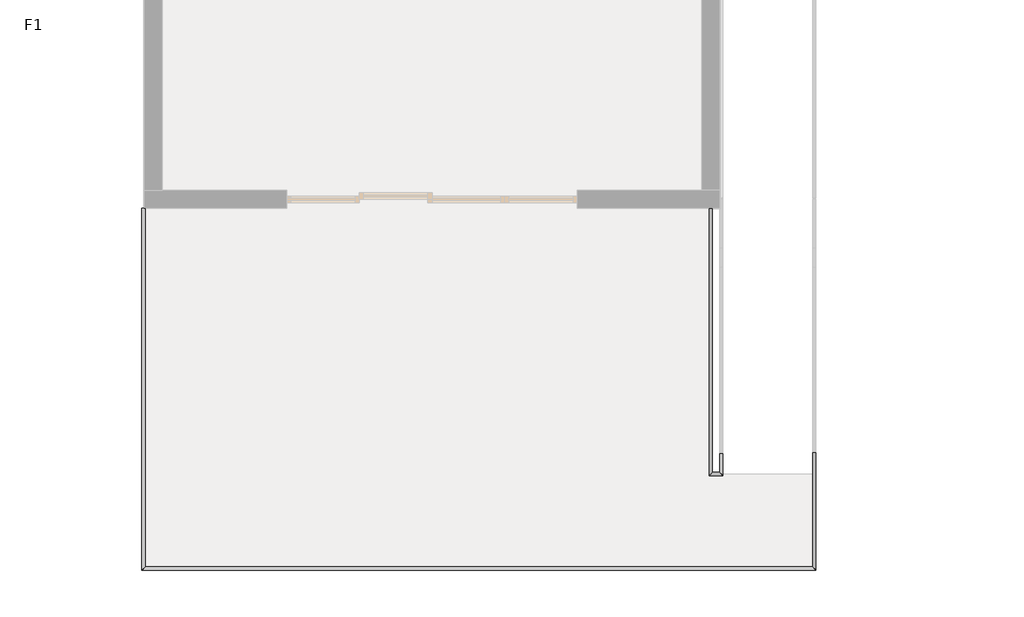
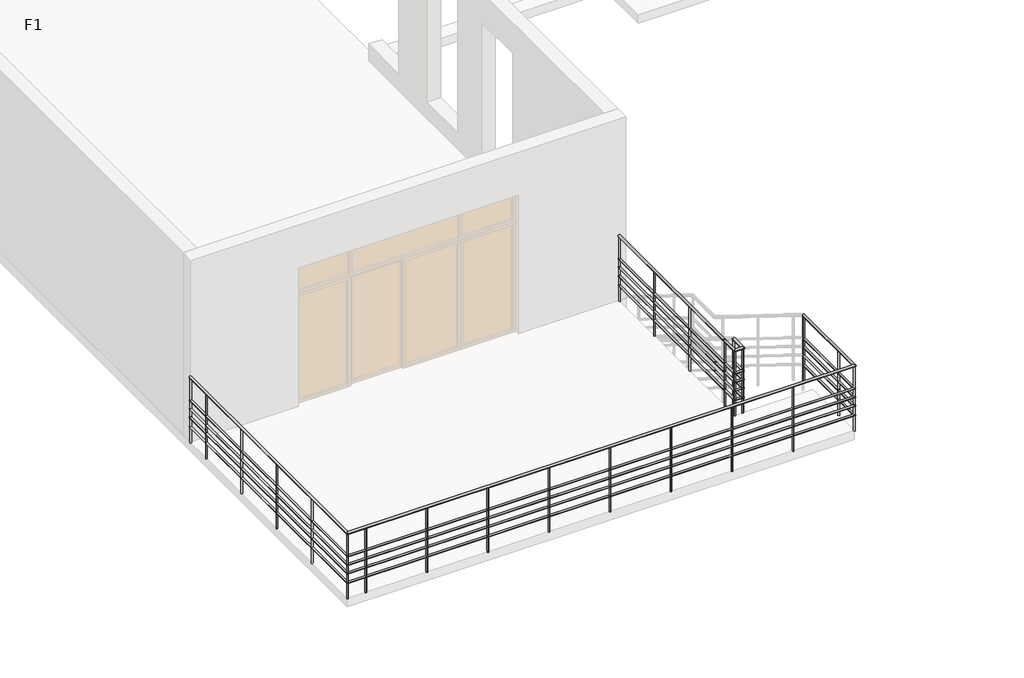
# One storey, part 2 of 4: 2 railings.
"""IFC4 building model written with IfcOpenShell, lengths in millimetres."""

from ifc_helpers import new_model, si_unit, point, frame, frame_2d, origin, origin_with_axes, place, context, project, spatial, circle_curve, ellipse_curve, trimmed, segment, composite_curve, outline, extrude, element, save
from ifc_brep_helpers import plane_surface, cylinder_surface, advanced_brep

model = new_model("IFC4")

# Units and contexts
model_context = context("Model", 3, world=origin())
ifc_project = project(units=[si_unit("LENGTHUNIT", "METRE", prefix="MILLI")], contexts=[model_context])

# Site, building, storey
site = spatial("IfcSite", under=ifc_project)
building = spatial("IfcBuilding", under=site)
storey = spatial("IfcBuildingStorey", under=building, Name="F1", Elevation=0.0)

# Railings
placement = place(None, origin())
element("IfcRailing", 1, ObjectType="900mm 圆管", at=placement, inside=storey, context=model_context, shape_type="SolidModel", body=[
    advanced_brep(
    [(-8695.9782681, -18561.0286905, 1130.0), (-8655.9782681, -18561.0286905, 1130.0), (-8695.9782681, -19981.0286905, 1130.0), (-8655.9782681, -20021.0286905, 1130.0), (-16955.9782681, -19981.0286905, 1130.0), (-16995.9782681, -20021.0286905, 1130.0), (-16955.9782681, -15541.0286905, 1130.0), (-16995.9782681, -15541.0286905, 1130.0)],
    [
        (0, 1, circle_curve(frame((-8675.9782681, -18561.0286905, 1130.0), z_axis=(0.0, 1.0, 0.0), x_axis=(1.0, 0.0, 0.0)), 20.0)),
        (1, 0, circle_curve(frame((-8675.9782681, -18561.0286905, 1130.0), z_axis=(0.0, 1.0, 0.0), x_axis=(1.0, 0.0, 0.0)), 20.0)),
        (0, 2),
        (2, 3, ellipse_curve(frame((-8675.9782681, -20001.0286905, 1130.0), z_axis=(0.7071067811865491, 0.7071067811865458, 0.0), x_axis=(-0.7071067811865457, 0.7071067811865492, 0.0)), 28.2842712, 20.0)),
        (3, 1),
        (3, 2, ellipse_curve(frame((-8675.9782681, -20001.0286905, 1130.0), z_axis=(0.7071067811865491, 0.7071067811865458, 0.0), x_axis=(-0.7071067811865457, 0.7071067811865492, 0.0)), 28.2842712, 20.0)),
        (2, 4),
        (4, 5, ellipse_curve(frame((-16975.9782681, -20001.0286905, 1130.0), z_axis=(0.707106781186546, -0.7071067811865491, 0.0), x_axis=(0.707106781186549, 0.707106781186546, 0.0)), 28.2842712, 20.0)),
        (5, 3),
        (5, 4, ellipse_curve(frame((-16975.9782681, -20001.0286905, 1130.0), z_axis=(0.707106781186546, -0.7071067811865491, 0.0), x_axis=(0.707106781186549, 0.707106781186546, 0.0)), 28.2842712, 20.0)),
        (6, 7, circle_curve(frame((-16975.9782681, -15541.0286905, 1130.0), z_axis=(0.0, 1.0, 0.0), x_axis=(-1.0, 0.0, 0.0)), 20.0)),
        (7, 6, circle_curve(frame((-16975.9782681, -15541.0286905, 1130.0), z_axis=(0.0, 1.0, 0.0), x_axis=(-1.0, 0.0, 0.0)), 20.0)),
        (4, 6),
        (7, 5),
    ],
    [
        plane_surface(frame((-8675.9782681, -18561.0286905, 1150.0), z_axis=(0.0, 1.0, 0.0), x_axis=(0.0, 0.0, -1.0))),
        cylinder_surface(frame((-8675.9782681, -18561.0286905, 1130.0), z_axis=(0.0, 1.0, 0.0), x_axis=(1.0, 0.0, 0.0)), 20.0),
        cylinder_surface(frame((-8675.9782681, -20001.0286905, 1130.0), z_axis=(1.0, 0.0, 0.0), x_axis=(0.0, -1.0, 0.0)), 20.0),
        plane_surface(frame((-16975.9782681, -15541.0286905, 1150.0), z_axis=(0.0, 1.0, 0.0), x_axis=(0.0, 0.0, 1.0))),
        cylinder_surface(frame((-16975.9782681, -20001.0286905, 1130.0), z_axis=(0.0, -1.0, 0.0), x_axis=(-1.0, 0.0, 0.0)), 20.0),
    ],
    [
        (0, [[1, 2]]),
        (1, [[-1, 3, 4, 5]]),
        (1, [[-2, -5, 6, -3]]),
        (2, [[-4, 7, 8, 9]]),
        (2, [[-6, -9, 10, -7]]),
        (3, [[11, 12]]),
        (4, [[-8, 13, -12, 14]]),
        (4, [[-10, -14, -11, -13]]),
    ],
),
    advanced_brep(
    [(-8660.9782681, -18561.0286905, 735.0), (-8690.9782681, -18561.0286905, 735.0), (-8660.9782681, -20016.0286905, 735.0), (-8690.9782681, -19986.0286905, 735.0), (-16990.9782681, -20016.0286905, 735.0), (-16960.9782681, -19986.0286905, 735.0), (-16990.9782681, -15541.0286905, 735.0), (-16960.9782681, -15541.0286905, 735.0)],
    [
        (0, 1, circle_curve(frame((-8675.9782681, -18561.0286905, 735.0), z_axis=(0.0, 1.0, 0.0), x_axis=(-1.0, 0.0, 0.0)), 15.0)),
        (1, 0, circle_curve(frame((-8675.9782681, -18561.0286905, 735.0), z_axis=(0.0, 1.0, 0.0), x_axis=(-1.0, 0.0, 0.0)), 15.0)),
        (0, 2),
        (2, 3, ellipse_curve(frame((-8675.9782681, -20001.0286905, 735.0), z_axis=(0.7071067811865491, 0.7071067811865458, 0.0), x_axis=(-0.7071067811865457, 0.7071067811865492, 0.0)), 21.2132034, 15.0)),
        (3, 1),
        (3, 2, ellipse_curve(frame((-8675.9782681, -20001.0286905, 735.0), z_axis=(0.7071067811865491, 0.7071067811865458, 0.0), x_axis=(-0.7071067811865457, 0.7071067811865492, 0.0)), 21.2132034, 15.0)),
        (2, 4),
        (4, 5, ellipse_curve(frame((-16975.9782681, -20001.0286905, 735.0), z_axis=(0.707106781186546, -0.7071067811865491, 0.0), x_axis=(0.707106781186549, 0.707106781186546, 0.0)), 21.2132034, 15.0)),
        (5, 3),
        (5, 4, ellipse_curve(frame((-16975.9782681, -20001.0286905, 735.0), z_axis=(0.707106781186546, -0.7071067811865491, 0.0), x_axis=(0.707106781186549, 0.707106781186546, 0.0)), 21.2132034, 15.0)),
        (6, 7, circle_curve(frame((-16975.9782681, -15541.0286905, 735.0), z_axis=(0.0, 1.0, 0.0), x_axis=(1.0, 0.0, 0.0)), 15.0)),
        (7, 6, circle_curve(frame((-16975.9782681, -15541.0286905, 735.0), z_axis=(0.0, 1.0, 0.0), x_axis=(1.0, 0.0, 0.0)), 15.0)),
        (4, 6),
        (7, 5),
    ],
    [
        plane_surface(frame((-8675.9782681, -18561.0286905, 750.0), z_axis=(0.0, 1.0, 0.0), x_axis=(0.0, 0.0, -1.0))),
        cylinder_surface(frame((-8675.9782681, -18561.0286905, 735.0), z_axis=(0.0, 1.0, 0.0), x_axis=(-1.0, 0.0, 0.0)), 15.0),
        cylinder_surface(frame((-8675.9782681, -20001.0286905, 735.0), z_axis=(1.0, 0.0, 0.0), x_axis=(0.0, 1.0, 0.0)), 15.0),
        plane_surface(frame((-16975.9782681, -15541.0286905, 750.0), z_axis=(0.0, 1.0, 0.0), x_axis=(0.0, 0.0, 1.0))),
        cylinder_surface(frame((-16975.9782681, -20001.0286905, 735.0), z_axis=(0.0, -1.0, 0.0), x_axis=(1.0, 0.0, 0.0)), 15.0),
    ],
    [
        (0, [[1, 2]]),
        (1, [[-1, 3, 4, 5]]),
        (1, [[-2, -5, 6, -3]]),
        (2, [[-4, 7, 8, 9]]),
        (2, [[-6, -9, 10, -7]]),
        (3, [[11, 12]]),
        (4, [[-8, 13, -12, 14]]),
        (4, [[-10, -14, -11, -13]]),
    ],
),
    advanced_brep(
    [(-8660.9782681, -18561.0286905, 585.0), (-8690.9782681, -18561.0286905, 585.0), (-8660.9782681, -20016.0286905, 585.0), (-8690.9782681, -19986.0286905, 585.0), (-16990.9782681, -20016.0286905, 585.0), (-16960.9782681, -19986.0286905, 585.0), (-16990.9782681, -15541.0286905, 585.0), (-16960.9782681, -15541.0286905, 585.0)],
    [
        (0, 1, circle_curve(frame((-8675.9782681, -18561.0286905, 585.0), z_axis=(0.0, 1.0, 0.0), x_axis=(-1.0, 0.0, 0.0)), 15.0)),
        (1, 0, circle_curve(frame((-8675.9782681, -18561.0286905, 585.0), z_axis=(0.0, 1.0, 0.0), x_axis=(-1.0, 0.0, 0.0)), 15.0)),
        (0, 2),
        (2, 3, ellipse_curve(frame((-8675.9782681, -20001.0286905, 585.0), z_axis=(0.7071067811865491, 0.7071067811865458, 0.0), x_axis=(-0.7071067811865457, 0.7071067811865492, 0.0)), 21.2132034, 15.0)),
        (3, 1),
        (3, 2, ellipse_curve(frame((-8675.9782681, -20001.0286905, 585.0), z_axis=(0.7071067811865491, 0.7071067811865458, 0.0), x_axis=(-0.7071067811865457, 0.7071067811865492, 0.0)), 21.2132034, 15.0)),
        (2, 4),
        (4, 5, ellipse_curve(frame((-16975.9782681, -20001.0286905, 585.0), z_axis=(0.707106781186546, -0.7071067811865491, 0.0), x_axis=(0.707106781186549, 0.707106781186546, 0.0)), 21.2132034, 15.0)),
        (5, 3),
        (5, 4, ellipse_curve(frame((-16975.9782681, -20001.0286905, 585.0), z_axis=(0.707106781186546, -0.7071067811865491, 0.0), x_axis=(0.707106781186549, 0.707106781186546, 0.0)), 21.2132034, 15.0)),
        (6, 7, circle_curve(frame((-16975.9782681, -15541.0286905, 585.0), z_axis=(0.0, 1.0, 0.0), x_axis=(1.0, 0.0, 0.0)), 15.0)),
        (7, 6, circle_curve(frame((-16975.9782681, -15541.0286905, 585.0), z_axis=(0.0, 1.0, 0.0), x_axis=(1.0, 0.0, 0.0)), 15.0)),
        (4, 6),
        (7, 5),
    ],
    [
        plane_surface(frame((-8675.9782681, -18561.0286905, 600.0), z_axis=(0.0, 1.0, 0.0), x_axis=(0.0, 0.0, -1.0))),
        cylinder_surface(frame((-8675.9782681, -18561.0286905, 585.0), z_axis=(0.0, 1.0, 0.0), x_axis=(-1.0, 0.0, 0.0)), 15.0),
        cylinder_surface(frame((-8675.9782681, -20001.0286905, 585.0), z_axis=(1.0, 0.0, 0.0), x_axis=(0.0, 1.0, 0.0)), 15.0),
        plane_surface(frame((-16975.9782681, -15541.0286905, 600.0), z_axis=(0.0, 1.0, 0.0), x_axis=(0.0, 0.0, 1.0))),
        cylinder_surface(frame((-16975.9782681, -20001.0286905, 585.0), z_axis=(0.0, -1.0, 0.0), x_axis=(1.0, 0.0, 0.0)), 15.0),
    ],
    [
        (0, [[1, 2]]),
        (1, [[-1, 3, 4, 5]]),
        (1, [[-2, -5, 6, -3]]),
        (2, [[-4, 7, 8, 9]]),
        (2, [[-6, -9, 10, -7]]),
        (3, [[11, 12]]),
        (4, [[-8, 13, -12, 14]]),
        (4, [[-10, -14, -11, -13]]),
    ],
),
    advanced_brep(
    [(-8660.9782681, -18561.0286905, 435.0), (-8690.9782681, -18561.0286905, 435.0), (-8660.9782681, -20016.0286905, 435.0), (-8690.9782681, -19986.0286905, 435.0), (-16990.9782681, -20016.0286905, 435.0), (-16960.9782681, -19986.0286905, 435.0), (-16990.9782681, -15541.0286905, 435.0), (-16960.9782681, -15541.0286905, 435.0)],
    [
        (0, 1, circle_curve(frame((-8675.9782681, -18561.0286905, 435.0), z_axis=(0.0, 1.0, 0.0), x_axis=(-1.0, 0.0, 0.0)), 15.0)),
        (1, 0, circle_curve(frame((-8675.9782681, -18561.0286905, 435.0), z_axis=(0.0, 1.0, 0.0), x_axis=(-1.0, 0.0, 0.0)), 15.0)),
        (0, 2),
        (2, 3, ellipse_curve(frame((-8675.9782681, -20001.0286905, 435.0), z_axis=(0.7071067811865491, 0.7071067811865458, 0.0), x_axis=(-0.7071067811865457, 0.7071067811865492, 0.0)), 21.2132034, 15.0)),
        (3, 1),
        (3, 2, ellipse_curve(frame((-8675.9782681, -20001.0286905, 435.0), z_axis=(0.7071067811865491, 0.7071067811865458, 0.0), x_axis=(-0.7071067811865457, 0.7071067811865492, 0.0)), 21.2132034, 15.0)),
        (2, 4),
        (4, 5, ellipse_curve(frame((-16975.9782681, -20001.0286905, 435.0), z_axis=(0.707106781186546, -0.7071067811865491, 0.0), x_axis=(0.707106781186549, 0.707106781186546, 0.0)), 21.2132034, 15.0)),
        (5, 3),
        (5, 4, ellipse_curve(frame((-16975.9782681, -20001.0286905, 435.0), z_axis=(0.707106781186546, -0.7071067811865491, 0.0), x_axis=(0.707106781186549, 0.707106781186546, 0.0)), 21.2132034, 15.0)),
        (6, 7, circle_curve(frame((-16975.9782681, -15541.0286905, 435.0), z_axis=(0.0, 1.0, 0.0), x_axis=(1.0, 0.0, 0.0)), 15.0)),
        (7, 6, circle_curve(frame((-16975.9782681, -15541.0286905, 435.0), z_axis=(0.0, 1.0, 0.0), x_axis=(1.0, 0.0, 0.0)), 15.0)),
        (4, 6),
        (7, 5),
    ],
    [
        plane_surface(frame((-8675.9782681, -18561.0286905, 450.0), z_axis=(0.0, 1.0, 0.0), x_axis=(0.0, 0.0, -1.0))),
        cylinder_surface(frame((-8675.9782681, -18561.0286905, 435.0), z_axis=(0.0, 1.0, 0.0), x_axis=(-1.0, 0.0, 0.0)), 15.0),
        cylinder_surface(frame((-8675.9782681, -20001.0286905, 435.0), z_axis=(1.0, 0.0, 0.0), x_axis=(0.0, 1.0, 0.0)), 15.0),
        plane_surface(frame((-16975.9782681, -15541.0286905, 450.0), z_axis=(0.0, 1.0, 0.0), x_axis=(0.0, 0.0, 1.0))),
        cylinder_surface(frame((-16975.9782681, -20001.0286905, 435.0), z_axis=(0.0, -1.0, 0.0), x_axis=(1.0, 0.0, 0.0)), 15.0),
    ],
    [
        (0, [[1, 2]]),
        (1, [[-1, 3, 4, 5]]),
        (1, [[-2, -5, 6, -3]]),
        (2, [[-4, 7, 8, 9]]),
        (2, [[-6, -9, 10, -7]]),
        (3, [[11, 12]]),
        (4, [[-8, 13, -12, 14]]),
        (4, [[-10, -14, -11, -13]]),
    ],
),
    advanced_brep(
    [(-8660.9782681, -18561.0286905, 273.0), (-8690.9782681, -18561.0286905, 273.0), (-8660.9782681, -20016.0286905, 273.0), (-8690.9782681, -19986.0286905, 273.0), (-16990.9782681, -20016.0286905, 273.0), (-16960.9782681, -19986.0286905, 273.0), (-16990.9782681, -15541.0286905, 273.0), (-16960.9782681, -15541.0286905, 273.0)],
    [
        (0, 1, circle_curve(frame((-8675.9782681, -18561.0286905, 273.0), z_axis=(0.0, 1.0, 0.0), x_axis=(-1.0, 0.0, 0.0)), 15.0)),
        (1, 0, circle_curve(frame((-8675.9782681, -18561.0286905, 273.0), z_axis=(0.0, 1.0, 0.0), x_axis=(-1.0, 0.0, 0.0)), 15.0)),
        (0, 2),
        (2, 3, ellipse_curve(frame((-8675.9782681, -20001.0286905, 273.0), z_axis=(0.7071067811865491, 0.7071067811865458, 0.0), x_axis=(-0.7071067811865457, 0.7071067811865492, 0.0)), 21.2132034, 15.0)),
        (3, 1),
        (3, 2, ellipse_curve(frame((-8675.9782681, -20001.0286905, 273.0), z_axis=(0.7071067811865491, 0.7071067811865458, 0.0), x_axis=(-0.7071067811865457, 0.7071067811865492, 0.0)), 21.2132034, 15.0)),
        (2, 4),
        (4, 5, ellipse_curve(frame((-16975.9782681, -20001.0286905, 273.0), z_axis=(0.707106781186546, -0.7071067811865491, 0.0), x_axis=(0.707106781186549, 0.707106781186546, 0.0)), 21.2132034, 15.0)),
        (5, 3),
        (5, 4, ellipse_curve(frame((-16975.9782681, -20001.0286905, 273.0), z_axis=(0.707106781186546, -0.7071067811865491, 0.0), x_axis=(0.707106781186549, 0.707106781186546, 0.0)), 21.2132034, 15.0)),
        (6, 7, circle_curve(frame((-16975.9782681, -15541.0286905, 273.0), z_axis=(0.0, 1.0, 0.0), x_axis=(1.0, 0.0, 0.0)), 15.0)),
        (7, 6, circle_curve(frame((-16975.9782681, -15541.0286905, 273.0), z_axis=(0.0, 1.0, 0.0), x_axis=(1.0, 0.0, 0.0)), 15.0)),
        (4, 6),
        (7, 5),
    ],
    [
        plane_surface(frame((-8675.9782681, -18561.0286905, 288.0), z_axis=(0.0, 1.0, 0.0), x_axis=(0.0, 0.0, -1.0))),
        cylinder_surface(frame((-8675.9782681, -18561.0286905, 273.0), z_axis=(0.0, 1.0, 0.0), x_axis=(-1.0, 0.0, 0.0)), 15.0),
        cylinder_surface(frame((-8675.9782681, -20001.0286905, 273.0), z_axis=(1.0, 0.0, 0.0), x_axis=(0.0, 1.0, 0.0)), 15.0),
        plane_surface(frame((-16975.9782681, -15541.0286905, 288.0), z_axis=(0.0, 1.0, 0.0), x_axis=(0.0, 0.0, 1.0))),
        cylinder_surface(frame((-16975.9782681, -20001.0286905, 273.0), z_axis=(0.0, -1.0, 0.0), x_axis=(1.0, 0.0, 0.0)), 15.0),
    ],
    [
        (0, [[1, 2]]),
        (1, [[-1, 3, 4, 5]]),
        (1, [[-2, -5, 6, -3]]),
        (2, [[-4, 7, 8, 9]]),
        (2, [[-6, -9, 10, -7]]),
        (3, [[11, 12]]),
        (4, [[-8, 13, -12, 14]]),
        (4, [[-10, -14, -11, -13]]),
    ],
),
    extrude(outline(composite_curve([segment(trimmed(circle_curve(frame_2d((-16975.9782681, -16001.0286905)), 12.5), [point((-16988.4782681, -16001.0286905))], [point((-16963.4782681, -16001.0286905))], False, "CARTESIAN"), True, "CONTINUOUS"), segment(trimmed(circle_curve(frame_2d((-16975.9782681, -16001.0286905)), 12.5), [point((-16963.4782681, -16001.0286905))], [point((-16988.4782681, -16001.0286905))], False, "CARTESIAN"), True, "CONTINUOUS")], self_intersect=False)), origin_with_axes(), (0.0, 0.0, 1.0), 1110.0),
    extrude(outline(composite_curve([segment(trimmed(circle_curve(frame_2d((-16975.9782681, -17001.0286905)), 12.5), [point((-16988.4782681, -17001.0286905))], [point((-16963.4782681, -17001.0286905))], False, "CARTESIAN"), True, "CONTINUOUS"), segment(trimmed(circle_curve(frame_2d((-16975.9782681, -17001.0286905)), 12.5), [point((-16963.4782681, -17001.0286905))], [point((-16988.4782681, -17001.0286905))], False, "CARTESIAN"), True, "CONTINUOUS")], self_intersect=False)), origin_with_axes(), (0.0, 0.0, 1.0), 1110.0),
    extrude(outline(composite_curve([segment(trimmed(circle_curve(frame_2d((-16975.9782681, -18001.0286905)), 12.5), [point((-16988.4782681, -18001.0286905))], [point((-16963.4782681, -18001.0286905))], False, "CARTESIAN"), True, "CONTINUOUS"), segment(trimmed(circle_curve(frame_2d((-16975.9782681, -18001.0286905)), 12.5), [point((-16963.4782681, -18001.0286905))], [point((-16988.4782681, -18001.0286905))], False, "CARTESIAN"), True, "CONTINUOUS")], self_intersect=False)), origin_with_axes(), (0.0, 0.0, 1.0), 1110.0),
    extrude(outline(composite_curve([segment(trimmed(circle_curve(frame_2d((-16975.9782681, -19001.0286905)), 12.5), [point((-16988.4782681, -19001.0286905))], [point((-16963.4782681, -19001.0286905))], False, "CARTESIAN"), True, "CONTINUOUS"), segment(trimmed(circle_curve(frame_2d((-16975.9782681, -19001.0286905)), 12.5), [point((-16963.4782681, -19001.0286905))], [point((-16988.4782681, -19001.0286905))], False, "CARTESIAN"), True, "CONTINUOUS")], self_intersect=False)), origin_with_axes(), (0.0, 0.0, 1.0), 1110.0),
    extrude(outline(composite_curve([segment(trimmed(circle_curve(frame_2d((-16675.9782681, -20001.0286905)), 12.5), [point((-16675.9782681, -20013.5286905))], [point((-16675.9782681, -19988.5286905))], False, "CARTESIAN"), True, "CONTINUOUS"), segment(trimmed(circle_curve(frame_2d((-16675.9782681, -20001.0286905)), 12.5), [point((-16675.9782681, -19988.5286905))], [point((-16675.9782681, -20013.5286905))], False, "CARTESIAN"), True, "CONTINUOUS")], self_intersect=False)), origin_with_axes(), (0.0, 0.0, 1.0), 1110.0),
    extrude(outline(composite_curve([segment(trimmed(circle_curve(frame_2d((-15675.9782681, -20001.0286905)), 12.5), [point((-15675.9782681, -20013.5286905))], [point((-15675.9782681, -19988.5286905))], False, "CARTESIAN"), True, "CONTINUOUS"), segment(trimmed(circle_curve(frame_2d((-15675.9782681, -20001.0286905)), 12.5), [point((-15675.9782681, -19988.5286905))], [point((-15675.9782681, -20013.5286905))], False, "CARTESIAN"), True, "CONTINUOUS")], self_intersect=False)), origin_with_axes(), (0.0, 0.0, 1.0), 1110.0),
    extrude(outline(composite_curve([segment(trimmed(circle_curve(frame_2d((-14675.9782681, -20001.0286905)), 12.5), [point((-14675.9782681, -20013.5286905))], [point((-14675.9782681, -19988.5286905))], False, "CARTESIAN"), True, "CONTINUOUS"), segment(trimmed(circle_curve(frame_2d((-14675.9782681, -20001.0286905)), 12.5), [point((-14675.9782681, -19988.5286905))], [point((-14675.9782681, -20013.5286905))], False, "CARTESIAN"), True, "CONTINUOUS")], self_intersect=False)), origin_with_axes(), (0.0, 0.0, 1.0), 1110.0),
    extrude(outline(composite_curve([segment(trimmed(circle_curve(frame_2d((-13675.9782681, -20001.0286905)), 12.5), [point((-13675.9782681, -20013.5286905))], [point((-13675.9782681, -19988.5286905))], False, "CARTESIAN"), True, "CONTINUOUS"), segment(trimmed(circle_curve(frame_2d((-13675.9782681, -20001.0286905)), 12.5), [point((-13675.9782681, -19988.5286905))], [point((-13675.9782681, -20013.5286905))], False, "CARTESIAN"), True, "CONTINUOUS")], self_intersect=False)), origin_with_axes(), (0.0, 0.0, 1.0), 1110.0),
    extrude(outline(composite_curve([segment(trimmed(circle_curve(frame_2d((-12675.9782681, -20001.0286905)), 12.5), [point((-12675.9782681, -20013.5286905))], [point((-12675.9782681, -19988.5286905))], False, "CARTESIAN"), True, "CONTINUOUS"), segment(trimmed(circle_curve(frame_2d((-12675.9782681, -20001.0286905)), 12.5), [point((-12675.9782681, -19988.5286905))], [point((-12675.9782681, -20013.5286905))], False, "CARTESIAN"), True, "CONTINUOUS")], self_intersect=False)), origin_with_axes(), (0.0, 0.0, 1.0), 1110.0),
    extrude(outline(composite_curve([segment(trimmed(circle_curve(frame_2d((-11675.9782681, -20001.0286905)), 12.5), [point((-11675.9782681, -20013.5286905))], [point((-11675.9782681, -19988.5286905))], False, "CARTESIAN"), True, "CONTINUOUS"), segment(trimmed(circle_curve(frame_2d((-11675.9782681, -20001.0286905)), 12.5), [point((-11675.9782681, -19988.5286905))], [point((-11675.9782681, -20013.5286905))], False, "CARTESIAN"), True, "CONTINUOUS")], self_intersect=False)), origin_with_axes(), (0.0, 0.0, 1.0), 1110.0),
    extrude(outline(composite_curve([segment(trimmed(circle_curve(frame_2d((-10675.9782681, -20001.0286905)), 12.5), [point((-10675.9782681, -20013.5286905))], [point((-10675.9782681, -19988.5286905))], False, "CARTESIAN"), True, "CONTINUOUS"), segment(trimmed(circle_curve(frame_2d((-10675.9782681, -20001.0286905)), 12.5), [point((-10675.9782681, -19988.5286905))], [point((-10675.9782681, -20013.5286905))], False, "CARTESIAN"), True, "CONTINUOUS")], self_intersect=False)), origin_with_axes(), (0.0, 0.0, 1.0), 1110.0),
    extrude(outline(composite_curve([segment(trimmed(circle_curve(frame_2d((-9675.9782681, -20001.0286905)), 12.5), [point((-9675.9782681, -20013.5286905))], [point((-9675.9782681, -19988.5286905))], False, "CARTESIAN"), True, "CONTINUOUS"), segment(trimmed(circle_curve(frame_2d((-9675.9782681, -20001.0286905)), 12.5), [point((-9675.9782681, -19988.5286905))], [point((-9675.9782681, -20013.5286905))], False, "CARTESIAN"), True, "CONTINUOUS")], self_intersect=False)), origin_with_axes(), (0.0, 0.0, 1.0), 1110.0),
    extrude(outline(composite_curve([segment(trimmed(circle_curve(frame_2d((-8675.9782681, -19561.0286905)), 12.5), [point((-8663.4782681, -19561.0286905))], [point((-8688.4782681, -19561.0286905))], False, "CARTESIAN"), True, "CONTINUOUS"), segment(trimmed(circle_curve(frame_2d((-8675.9782681, -19561.0286905)), 12.5), [point((-8688.4782681, -19561.0286905))], [point((-8663.4782681, -19561.0286905))], False, "CARTESIAN"), True, "CONTINUOUS")], self_intersect=False)), origin_with_axes(), (0.0, 0.0, 1.0), 1110.0),
    extrude(outline(composite_curve([segment(trimmed(circle_curve(frame_2d((-16975.9782681, -20001.0286905)), 12.5), [point((-16975.9782681, -20013.5286905))], [point((-16975.9782681, -19988.5286905))], False, "CARTESIAN"), True, "CONTINUOUS"), segment(trimmed(circle_curve(frame_2d((-16975.9782681, -20001.0286905)), 12.5), [point((-16975.9782681, -19988.5286905))], [point((-16975.9782681, -20013.5286905))], False, "CARTESIAN"), True, "CONTINUOUS")], self_intersect=False)), origin_with_axes(), (0.0, 0.0, 1.0), 1110.0),
    extrude(outline(composite_curve([segment(trimmed(circle_curve(frame_2d((-8675.9782681, -20001.0286905)), 12.5), [point((-8663.4782681, -20001.0286905))], [point((-8688.4782681, -20001.0286905))], False, "CARTESIAN"), True, "CONTINUOUS"), segment(trimmed(circle_curve(frame_2d((-8675.9782681, -20001.0286905)), 12.5), [point((-8688.4782681, -20001.0286905))], [point((-8663.4782681, -20001.0286905))], False, "CARTESIAN"), True, "CONTINUOUS")], self_intersect=False)), origin_with_axes(), (0.0, 0.0, 1.0), 1110.0),
    extrude(outline(composite_curve([segment(trimmed(circle_curve(frame_2d((-16975.9782681, -15553.5286905)), 12.5), [point((-16988.4782681, -15553.5286905))], [point((-16963.4782681, -15553.5286905))], False, "CARTESIAN"), True, "CONTINUOUS"), segment(trimmed(circle_curve(frame_2d((-16975.9782681, -15553.5286905)), 12.5), [point((-16963.4782681, -15553.5286905))], [point((-16988.4782681, -15553.5286905))], False, "CARTESIAN"), True, "CONTINUOUS")], self_intersect=False)), origin_with_axes(), (0.0, 0.0, 1.0), 1110.0),
    extrude(outline(composite_curve([segment(trimmed(circle_curve(frame_2d((-8675.9782681, -18573.5286905)), 12.5), [point((-8663.4782681, -18573.5286905))], [point((-8688.4782681, -18573.5286905))], False, "CARTESIAN"), True, "CONTINUOUS"), segment(trimmed(circle_curve(frame_2d((-8675.9782681, -18573.5286905)), 12.5), [point((-8688.4782681, -18573.5286905))], [point((-8663.4782681, -18573.5286905))], False, "CARTESIAN"), True, "CONTINUOUS")], self_intersect=False)), origin_with_axes(), (0.0, 0.0, 1.0), 1110.0),
])
element("IfcRailing", 2, ObjectType="900mm 圆管", at=placement, inside=storey, context=model_context, shape_type="SolidModel", body=[
    advanced_brep(
    [(-9975.9782681, -15551.0286905, 1130.0), (-9935.9782681, -15551.0286905, 1130.0), (-9975.9782681, -18851.0286905, 1130.0), (-9935.9782681, -18811.0286905, 1130.0), (-9805.9782681, -18851.0286905, 1130.0), (-9845.9782681, -18811.0286905, 1130.0), (-9805.9782681, -18561.0286905, 1130.0), (-9845.9782681, -18561.0286905, 1130.0)],
    [
        (0, 1, circle_curve(frame((-9955.9782681, -15551.0286905, 1130.0), z_axis=(0.0, 1.0, 0.0), x_axis=(1.0, 0.0, 0.0)), 20.0)),
        (1, 0, circle_curve(frame((-9955.9782681, -15551.0286905, 1130.0), z_axis=(0.0, 1.0, 0.0), x_axis=(1.0, 0.0, 0.0)), 20.0)),
        (0, 2),
        (2, 3, ellipse_curve(frame((-9955.9782681, -18831.0286905, 1130.0), z_axis=(-0.7071067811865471, 0.707106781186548, 0.0), x_axis=(0.7071067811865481, 0.7071067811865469, 0.0)), 28.2842712, 20.0)),
        (3, 1),
        (3, 2, ellipse_curve(frame((-9955.9782681, -18831.0286905, 1130.0), z_axis=(-0.7071067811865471, 0.707106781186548, 0.0), x_axis=(0.7071067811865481, 0.7071067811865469, 0.0)), 28.2842712, 20.0)),
        (2, 4),
        (4, 5, ellipse_curve(frame((-9825.9782681, -18831.0286905, 1130.0), z_axis=(-0.7071067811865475, -0.7071067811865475, 0.0), x_axis=(-0.7071067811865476, 0.7071067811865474, 0.0)), 28.2842712, 20.0)),
        (5, 3),
        (5, 4, ellipse_curve(frame((-9825.9782681, -18831.0286905, 1130.0), z_axis=(-0.7071067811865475, -0.7071067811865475, 0.0), x_axis=(-0.7071067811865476, 0.7071067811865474, 0.0)), 28.2842712, 20.0)),
        (6, 7, circle_curve(frame((-9825.9782681, -18561.0286905, 1130.0), z_axis=(0.0, 1.0, 0.0), x_axis=(-1.0, 0.0, 0.0)), 20.0)),
        (7, 6, circle_curve(frame((-9825.9782681, -18561.0286905, 1130.0), z_axis=(0.0, 1.0, 0.0), x_axis=(-1.0, 0.0, 0.0)), 20.0)),
        (4, 6),
        (7, 5),
    ],
    [
        plane_surface(frame((-9955.9782681, -15551.0286905, 1150.0), z_axis=(0.0, 1.0, 0.0), x_axis=(0.0, 0.0, -1.0))),
        cylinder_surface(frame((-9955.9782681, -15551.0286905, 1130.0), z_axis=(0.0, 1.0, 0.0), x_axis=(1.0, 0.0, 0.0)), 20.0),
        cylinder_surface(frame((-9955.9782681, -18831.0286905, 1130.0), z_axis=(-1.0, 0.0, 0.0), x_axis=(0.0, 1.0, 0.0)), 20.0),
        plane_surface(frame((-9825.9782681, -18561.0286905, 1150.0), z_axis=(0.0, 1.0, 0.0), x_axis=(0.0, 0.0, 1.0))),
        cylinder_surface(frame((-9825.9782681, -18831.0286905, 1130.0), z_axis=(0.0, -1.0, 0.0), x_axis=(-1.0, 0.0, 0.0)), 20.0),
    ],
    [
        (0, [[1, 2]]),
        (1, [[-1, 3, 4, 5]]),
        (1, [[-2, -5, 6, -3]]),
        (2, [[-4, 7, 8, 9]]),
        (2, [[-6, -9, 10, -7]]),
        (3, [[11, 12]]),
        (4, [[-8, 13, -12, 14]]),
        (4, [[-10, -14, -11, -13]]),
    ],
),
    advanced_brep(
    [(-9940.9782681, -15551.0286905, 735.0), (-9970.9782681, -15551.0286905, 735.0), (-9940.9782681, -18816.0286905, 735.0), (-9970.9782681, -18846.0286905, 735.0), (-9840.9782681, -18816.0286905, 735.0), (-9810.9782681, -18846.0286905, 735.0), (-9840.9782681, -18561.0286905, 735.0), (-9810.9782681, -18561.0286905, 735.0)],
    [
        (0, 1, circle_curve(frame((-9955.9782681, -15551.0286905, 735.0), z_axis=(0.0, 1.0, 0.0), x_axis=(-1.0, 0.0, 0.0)), 15.0)),
        (1, 0, circle_curve(frame((-9955.9782681, -15551.0286905, 735.0), z_axis=(0.0, 1.0, 0.0), x_axis=(-1.0, 0.0, 0.0)), 15.0)),
        (0, 2),
        (2, 3, ellipse_curve(frame((-9955.9782681, -18831.0286905, 735.0), z_axis=(-0.7071067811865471, 0.707106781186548, 0.0), x_axis=(0.7071067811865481, 0.7071067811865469, 0.0)), 21.2132034, 15.0)),
        (3, 1),
        (3, 2, ellipse_curve(frame((-9955.9782681, -18831.0286905, 735.0), z_axis=(-0.7071067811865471, 0.707106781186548, 0.0), x_axis=(0.7071067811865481, 0.7071067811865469, 0.0)), 21.2132034, 15.0)),
        (2, 4),
        (4, 5, ellipse_curve(frame((-9825.9782681, -18831.0286905, 735.0), z_axis=(-0.7071067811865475, -0.7071067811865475, 0.0), x_axis=(-0.7071067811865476, 0.7071067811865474, 0.0)), 21.2132034, 15.0)),
        (5, 3),
        (5, 4, ellipse_curve(frame((-9825.9782681, -18831.0286905, 735.0), z_axis=(-0.7071067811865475, -0.7071067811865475, 0.0), x_axis=(-0.7071067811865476, 0.7071067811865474, 0.0)), 21.2132034, 15.0)),
        (6, 7, circle_curve(frame((-9825.9782681, -18561.0286905, 735.0), z_axis=(0.0, 1.0, 0.0), x_axis=(1.0, 0.0, 0.0)), 15.0)),
        (7, 6, circle_curve(frame((-9825.9782681, -18561.0286905, 735.0), z_axis=(0.0, 1.0, 0.0), x_axis=(1.0, 0.0, 0.0)), 15.0)),
        (4, 6),
        (7, 5),
    ],
    [
        plane_surface(frame((-9955.9782681, -15551.0286905, 750.0), z_axis=(0.0, 1.0, 0.0), x_axis=(0.0, 0.0, -1.0))),
        cylinder_surface(frame((-9955.9782681, -15551.0286905, 735.0), z_axis=(0.0, 1.0, 0.0), x_axis=(-1.0, 0.0, 0.0)), 15.0),
        cylinder_surface(frame((-9955.9782681, -18831.0286905, 735.0), z_axis=(-1.0, 0.0, 0.0), x_axis=(0.0, -1.0, 0.0)), 15.0),
        plane_surface(frame((-9825.9782681, -18561.0286905, 750.0), z_axis=(0.0, 1.0, 0.0), x_axis=(0.0, 0.0, 1.0))),
        cylinder_surface(frame((-9825.9782681, -18831.0286905, 735.0), z_axis=(0.0, -1.0, 0.0), x_axis=(1.0, 0.0, 0.0)), 15.0),
    ],
    [
        (0, [[1, 2]]),
        (1, [[-1, 3, 4, 5]]),
        (1, [[-2, -5, 6, -3]]),
        (2, [[-4, 7, 8, 9]]),
        (2, [[-6, -9, 10, -7]]),
        (3, [[11, 12]]),
        (4, [[-8, 13, -12, 14]]),
        (4, [[-10, -14, -11, -13]]),
    ],
),
    advanced_brep(
    [(-9940.9782681, -15551.0286905, 585.0), (-9970.9782681, -15551.0286905, 585.0), (-9940.9782681, -18816.0286905, 585.0), (-9970.9782681, -18846.0286905, 585.0), (-9840.9782681, -18816.0286905, 585.0), (-9810.9782681, -18846.0286905, 585.0), (-9840.9782681, -18561.0286905, 585.0), (-9810.9782681, -18561.0286905, 585.0)],
    [
        (0, 1, circle_curve(frame((-9955.9782681, -15551.0286905, 585.0), z_axis=(0.0, 1.0, 0.0), x_axis=(-1.0, 0.0, 0.0)), 15.0)),
        (1, 0, circle_curve(frame((-9955.9782681, -15551.0286905, 585.0), z_axis=(0.0, 1.0, 0.0), x_axis=(-1.0, 0.0, 0.0)), 15.0)),
        (0, 2),
        (2, 3, ellipse_curve(frame((-9955.9782681, -18831.0286905, 585.0), z_axis=(-0.7071067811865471, 0.707106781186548, 0.0), x_axis=(0.7071067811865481, 0.7071067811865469, 0.0)), 21.2132034, 15.0)),
        (3, 1),
        (3, 2, ellipse_curve(frame((-9955.9782681, -18831.0286905, 585.0), z_axis=(-0.7071067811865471, 0.707106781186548, 0.0), x_axis=(0.7071067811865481, 0.7071067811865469, 0.0)), 21.2132034, 15.0)),
        (2, 4),
        (4, 5, ellipse_curve(frame((-9825.9782681, -18831.0286905, 585.0), z_axis=(-0.7071067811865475, -0.7071067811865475, 0.0), x_axis=(-0.7071067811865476, 0.7071067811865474, 0.0)), 21.2132034, 15.0)),
        (5, 3),
        (5, 4, ellipse_curve(frame((-9825.9782681, -18831.0286905, 585.0), z_axis=(-0.7071067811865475, -0.7071067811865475, 0.0), x_axis=(-0.7071067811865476, 0.7071067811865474, 0.0)), 21.2132034, 15.0)),
        (6, 7, circle_curve(frame((-9825.9782681, -18561.0286905, 585.0), z_axis=(0.0, 1.0, 0.0), x_axis=(1.0, 0.0, 0.0)), 15.0)),
        (7, 6, circle_curve(frame((-9825.9782681, -18561.0286905, 585.0), z_axis=(0.0, 1.0, 0.0), x_axis=(1.0, 0.0, 0.0)), 15.0)),
        (4, 6),
        (7, 5),
    ],
    [
        plane_surface(frame((-9955.9782681, -15551.0286905, 600.0), z_axis=(0.0, 1.0, 0.0), x_axis=(0.0, 0.0, -1.0))),
        cylinder_surface(frame((-9955.9782681, -15551.0286905, 585.0), z_axis=(0.0, 1.0, 0.0), x_axis=(-1.0, 0.0, 0.0)), 15.0),
        cylinder_surface(frame((-9955.9782681, -18831.0286905, 585.0), z_axis=(-1.0, 0.0, 0.0), x_axis=(0.0, -1.0, 0.0)), 15.0),
        plane_surface(frame((-9825.9782681, -18561.0286905, 600.0), z_axis=(0.0, 1.0, 0.0), x_axis=(0.0, 0.0, 1.0))),
        cylinder_surface(frame((-9825.9782681, -18831.0286905, 585.0), z_axis=(0.0, -1.0, 0.0), x_axis=(1.0, 0.0, 0.0)), 15.0),
    ],
    [
        (0, [[1, 2]]),
        (1, [[-1, 3, 4, 5]]),
        (1, [[-2, -5, 6, -3]]),
        (2, [[-4, 7, 8, 9]]),
        (2, [[-6, -9, 10, -7]]),
        (3, [[11, 12]]),
        (4, [[-8, 13, -12, 14]]),
        (4, [[-10, -14, -11, -13]]),
    ],
),
    advanced_brep(
    [(-9940.9782681, -15551.0286905, 435.0), (-9970.9782681, -15551.0286905, 435.0), (-9940.9782681, -18816.0286905, 435.0), (-9970.9782681, -18846.0286905, 435.0), (-9840.9782681, -18816.0286905, 435.0), (-9810.9782681, -18846.0286905, 435.0), (-9840.9782681, -18561.0286905, 435.0), (-9810.9782681, -18561.0286905, 435.0)],
    [
        (0, 1, circle_curve(frame((-9955.9782681, -15551.0286905, 435.0), z_axis=(0.0, 1.0, 0.0), x_axis=(-1.0, 0.0, 0.0)), 15.0)),
        (1, 0, circle_curve(frame((-9955.9782681, -15551.0286905, 435.0), z_axis=(0.0, 1.0, 0.0), x_axis=(-1.0, 0.0, 0.0)), 15.0)),
        (0, 2),
        (2, 3, ellipse_curve(frame((-9955.9782681, -18831.0286905, 435.0), z_axis=(-0.7071067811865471, 0.707106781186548, 0.0), x_axis=(0.7071067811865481, 0.7071067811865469, 0.0)), 21.2132034, 15.0)),
        (3, 1),
        (3, 2, ellipse_curve(frame((-9955.9782681, -18831.0286905, 435.0), z_axis=(-0.7071067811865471, 0.707106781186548, 0.0), x_axis=(0.7071067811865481, 0.7071067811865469, 0.0)), 21.2132034, 15.0)),
        (2, 4),
        (4, 5, ellipse_curve(frame((-9825.9782681, -18831.0286905, 435.0), z_axis=(-0.7071067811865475, -0.7071067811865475, 0.0), x_axis=(-0.7071067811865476, 0.7071067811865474, 0.0)), 21.2132034, 15.0)),
        (5, 3),
        (5, 4, ellipse_curve(frame((-9825.9782681, -18831.0286905, 435.0), z_axis=(-0.7071067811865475, -0.7071067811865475, 0.0), x_axis=(-0.7071067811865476, 0.7071067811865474, 0.0)), 21.2132034, 15.0)),
        (6, 7, circle_curve(frame((-9825.9782681, -18561.0286905, 435.0), z_axis=(0.0, 1.0, 0.0), x_axis=(1.0, 0.0, 0.0)), 15.0)),
        (7, 6, circle_curve(frame((-9825.9782681, -18561.0286905, 435.0), z_axis=(0.0, 1.0, 0.0), x_axis=(1.0, 0.0, 0.0)), 15.0)),
        (4, 6),
        (7, 5),
    ],
    [
        plane_surface(frame((-9955.9782681, -15551.0286905, 450.0), z_axis=(0.0, 1.0, 0.0), x_axis=(0.0, 0.0, -1.0))),
        cylinder_surface(frame((-9955.9782681, -15551.0286905, 435.0), z_axis=(0.0, 1.0, 0.0), x_axis=(-1.0, 0.0, 0.0)), 15.0),
        cylinder_surface(frame((-9955.9782681, -18831.0286905, 435.0), z_axis=(-1.0, 0.0, 0.0), x_axis=(0.0, -1.0, 0.0)), 15.0),
        plane_surface(frame((-9825.9782681, -18561.0286905, 450.0), z_axis=(0.0, 1.0, 0.0), x_axis=(0.0, 0.0, 1.0))),
        cylinder_surface(frame((-9825.9782681, -18831.0286905, 435.0), z_axis=(0.0, -1.0, 0.0), x_axis=(1.0, 0.0, 0.0)), 15.0),
    ],
    [
        (0, [[1, 2]]),
        (1, [[-1, 3, 4, 5]]),
        (1, [[-2, -5, 6, -3]]),
        (2, [[-4, 7, 8, 9]]),
        (2, [[-6, -9, 10, -7]]),
        (3, [[11, 12]]),
        (4, [[-8, 13, -12, 14]]),
        (4, [[-10, -14, -11, -13]]),
    ],
),
    advanced_brep(
    [(-9940.9782681, -15551.0286905, 273.0), (-9970.9782681, -15551.0286905, 273.0), (-9940.9782681, -18816.0286905, 273.0), (-9970.9782681, -18846.0286905, 273.0), (-9840.9782681, -18816.0286905, 273.0), (-9810.9782681, -18846.0286905, 273.0), (-9840.9782681, -18561.0286905, 273.0), (-9810.9782681, -18561.0286905, 273.0)],
    [
        (0, 1, circle_curve(frame((-9955.9782681, -15551.0286905, 273.0), z_axis=(0.0, 1.0, 0.0), x_axis=(-1.0, 0.0, 0.0)), 15.0)),
        (1, 0, circle_curve(frame((-9955.9782681, -15551.0286905, 273.0), z_axis=(0.0, 1.0, 0.0), x_axis=(-1.0, 0.0, 0.0)), 15.0)),
        (0, 2),
        (2, 3, ellipse_curve(frame((-9955.9782681, -18831.0286905, 273.0), z_axis=(-0.7071067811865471, 0.707106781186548, 0.0), x_axis=(0.7071067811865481, 0.7071067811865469, 0.0)), 21.2132034, 15.0)),
        (3, 1),
        (3, 2, ellipse_curve(frame((-9955.9782681, -18831.0286905, 273.0), z_axis=(-0.7071067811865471, 0.707106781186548, 0.0), x_axis=(0.7071067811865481, 0.7071067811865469, 0.0)), 21.2132034, 15.0)),
        (2, 4),
        (4, 5, ellipse_curve(frame((-9825.9782681, -18831.0286905, 273.0), z_axis=(-0.7071067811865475, -0.7071067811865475, 0.0), x_axis=(-0.7071067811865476, 0.7071067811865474, 0.0)), 21.2132034, 15.0)),
        (5, 3),
        (5, 4, ellipse_curve(frame((-9825.9782681, -18831.0286905, 273.0), z_axis=(-0.7071067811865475, -0.7071067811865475, 0.0), x_axis=(-0.7071067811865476, 0.7071067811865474, 0.0)), 21.2132034, 15.0)),
        (6, 7, circle_curve(frame((-9825.9782681, -18561.0286905, 273.0), z_axis=(0.0, 1.0, 0.0), x_axis=(1.0, 0.0, 0.0)), 15.0)),
        (7, 6, circle_curve(frame((-9825.9782681, -18561.0286905, 273.0), z_axis=(0.0, 1.0, 0.0), x_axis=(1.0, 0.0, 0.0)), 15.0)),
        (4, 6),
        (7, 5),
    ],
    [
        plane_surface(frame((-9955.9782681, -15551.0286905, 288.0), z_axis=(0.0, 1.0, 0.0), x_axis=(0.0, 0.0, -1.0))),
        cylinder_surface(frame((-9955.9782681, -15551.0286905, 273.0), z_axis=(0.0, 1.0, 0.0), x_axis=(-1.0, 0.0, 0.0)), 15.0),
        cylinder_surface(frame((-9955.9782681, -18831.0286905, 273.0), z_axis=(-1.0, 0.0, 0.0), x_axis=(0.0, -1.0, 0.0)), 15.0),
        plane_surface(frame((-9825.9782681, -18561.0286905, 288.0), z_axis=(0.0, 1.0, 0.0), x_axis=(0.0, 0.0, 1.0))),
        cylinder_surface(frame((-9825.9782681, -18831.0286905, 273.0), z_axis=(0.0, -1.0, 0.0), x_axis=(1.0, 0.0, 0.0)), 15.0),
    ],
    [
        (0, [[1, 2]]),
        (1, [[-1, 3, 4, 5]]),
        (1, [[-2, -5, 6, -3]]),
        (2, [[-4, 7, 8, 9]]),
        (2, [[-6, -9, 10, -7]]),
        (3, [[11, 12]]),
        (4, [[-8, 13, -12, 14]]),
        (4, [[-10, -14, -11, -13]]),
    ],
),
    extrude(outline(composite_curve([segment(trimmed(circle_curve(frame_2d((-9955.9782681, -18551.0286905)), 12.5), [point((-9943.4782681, -18551.0286905))], [point((-9968.4782681, -18551.0286905))], False, "CARTESIAN"), True, "CONTINUOUS"), segment(trimmed(circle_curve(frame_2d((-9955.9782681, -18551.0286905)), 12.5), [point((-9968.4782681, -18551.0286905))], [point((-9943.4782681, -18551.0286905))], False, "CARTESIAN"), True, "CONTINUOUS")], self_intersect=False)), origin_with_axes(), (0.0, 0.0, 1.0), 1110.0),
    extrude(outline(composite_curve([segment(trimmed(circle_curve(frame_2d((-9955.9782681, -17551.0286905)), 12.5), [point((-9943.4782681, -17551.0286905))], [point((-9968.4782681, -17551.0286905))], False, "CARTESIAN"), True, "CONTINUOUS"), segment(trimmed(circle_curve(frame_2d((-9955.9782681, -17551.0286905)), 12.5), [point((-9968.4782681, -17551.0286905))], [point((-9943.4782681, -17551.0286905))], False, "CARTESIAN"), True, "CONTINUOUS")], self_intersect=False)), origin_with_axes(), (0.0, 0.0, 1.0), 1110.0),
    extrude(outline(composite_curve([segment(trimmed(circle_curve(frame_2d((-9955.9782681, -16551.0286905)), 12.5), [point((-9943.4782681, -16551.0286905))], [point((-9968.4782681, -16551.0286905))], False, "CARTESIAN"), True, "CONTINUOUS"), segment(trimmed(circle_curve(frame_2d((-9955.9782681, -16551.0286905)), 12.5), [point((-9968.4782681, -16551.0286905))], [point((-9943.4782681, -16551.0286905))], False, "CARTESIAN"), True, "CONTINUOUS")], self_intersect=False)), origin_with_axes(), (0.0, 0.0, 1.0), 1110.0),
    extrude(outline(composite_curve([segment(trimmed(circle_curve(frame_2d((-9825.9782681, -18831.0286905)), 12.5), [point((-9825.9782681, -18818.5286905))], [point((-9825.9782681, -18843.5286905))], False, "CARTESIAN"), True, "CONTINUOUS"), segment(trimmed(circle_curve(frame_2d((-9825.9782681, -18831.0286905)), 12.5), [point((-9825.9782681, -18843.5286905))], [point((-9825.9782681, -18818.5286905))], False, "CARTESIAN"), True, "CONTINUOUS")], self_intersect=False)), origin_with_axes(), (0.0, 0.0, 1.0), 1110.0),
    extrude(outline(composite_curve([segment(trimmed(circle_curve(frame_2d((-9955.9782681, -18831.0286905)), 12.5), [point((-9943.4782681, -18831.0286905))], [point((-9968.4782681, -18831.0286905))], False, "CARTESIAN"), True, "CONTINUOUS"), segment(trimmed(circle_curve(frame_2d((-9955.9782681, -18831.0286905)), 12.5), [point((-9968.4782681, -18831.0286905))], [point((-9943.4782681, -18831.0286905))], False, "CARTESIAN"), True, "CONTINUOUS")], self_intersect=False)), origin_with_axes(), (0.0, 0.0, 1.0), 1110.0),
    extrude(outline(composite_curve([segment(trimmed(circle_curve(frame_2d((-9825.9782681, -18573.5286905)), 12.5), [point((-9838.4782681, -18573.5286905))], [point((-9813.4782681, -18573.5286905))], False, "CARTESIAN"), True, "CONTINUOUS"), segment(trimmed(circle_curve(frame_2d((-9825.9782681, -18573.5286905)), 12.5), [point((-9813.4782681, -18573.5286905))], [point((-9838.4782681, -18573.5286905))], False, "CARTESIAN"), True, "CONTINUOUS")], self_intersect=False)), origin_with_axes(), (0.0, 0.0, 1.0), 1110.0),
    extrude(outline(composite_curve([segment(trimmed(circle_curve(frame_2d((-9955.9782681, -15563.5286905)), 12.5), [point((-9943.4782681, -15563.5286905))], [point((-9968.4782681, -15563.5286905))], False, "CARTESIAN"), True, "CONTINUOUS"), segment(trimmed(circle_curve(frame_2d((-9955.9782681, -15563.5286905)), 12.5), [point((-9968.4782681, -15563.5286905))], [point((-9943.4782681, -15563.5286905))], False, "CARTESIAN"), True, "CONTINUOUS")], self_intersect=False)), origin_with_axes(), (0.0, 0.0, 1.0), 1110.0),
])

save(model, "model.ifc")
